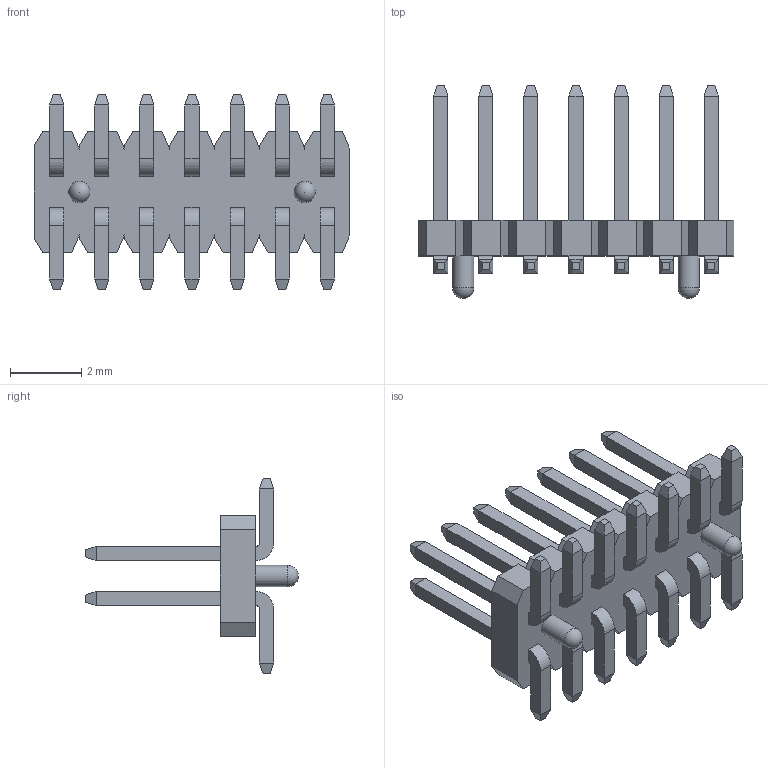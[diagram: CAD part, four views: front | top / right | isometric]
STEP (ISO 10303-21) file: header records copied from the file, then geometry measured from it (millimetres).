
FILE_DESCRIPTION(/* description */ (''),/* implementation_level */ '2;1');
FILE_NAME(/* name */ 'PZ127-2-07-S-1.0-XX(L5.3) (1.27 双排 排针 贴片 塑高1.0-HCTL).stp',/* time_stamp */ '2026-10-22T16:20:33+08:00',/* author */ (''),/* organization */ (''),/* preprocessor_version */ 'ST-DEVELOPER v16',/* originating_system */ 'SIEMENS PLM Software NX 10.0',/* authorisation */ '');
FILE_SCHEMA (('AUTOMOTIVE_DESIGN { 1 0 10303 214 3 1 1 1 }'));
Length unit declared in the file: millimetre
Products named in the file (1): PZ127-2-03-S-1.0-XX_L5.5_ _1.27 双排 排针 \X2\8D34
7247\X0\ 塑高1.0-HCTL__step
Bounding box: 8.89 x 6 x 5.5 mm (x, y, z)
Volume: 42.5 mm3; surface area: 223.4 mm2
Topology: 1 solids, 1 shells, 342 faces, 824 edges, 512 vertices
Faces by surface type: plane 310, cylinder 30, sphere 2
Full cylindrical faces by diameter (mm): 0.6 x2
Entity records: 11581 total; most frequent: CARTESIAN_POINT 1667, ORIENTED_EDGE 1632, DIRECTION 1562, EDGE_CURVE 816, LINE 756, VECTOR 756, VERTEX_POINT 508, AXIS2_PLACEMENT_3D 403
